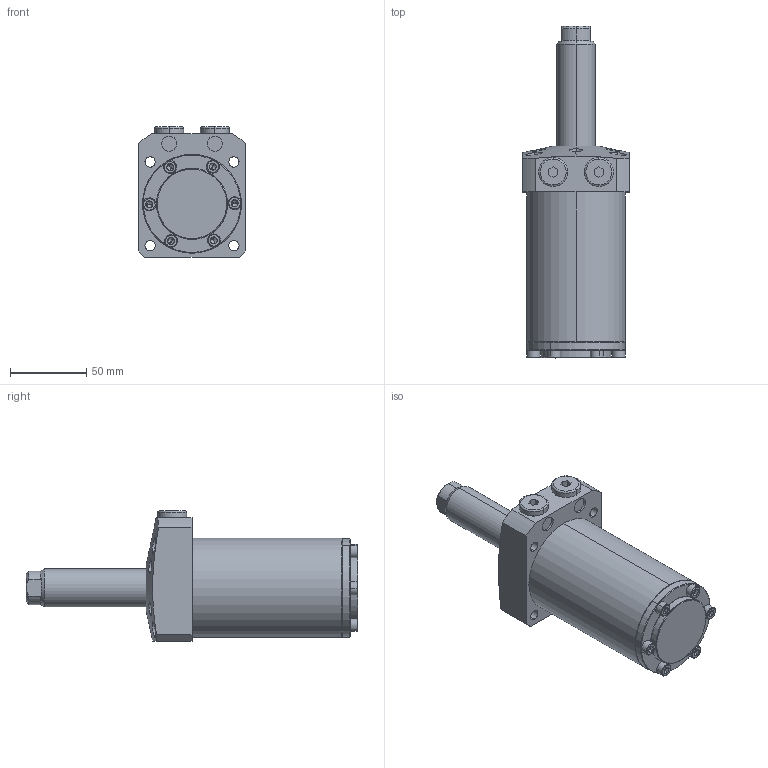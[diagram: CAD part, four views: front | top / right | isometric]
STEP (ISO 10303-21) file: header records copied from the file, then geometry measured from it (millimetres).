
FILE_DESCRIPTION (( 'STEP AP203' ), '1' );
FILE_NAME ('680650-CA-076.step', '2016-11-02T03:25:30', ( 'wxp' ), ( '' ), 'SwSTEP 2.0', 'SolidWorks 2011', '' );
FILE_SCHEMA (( 'CONFIG_CONTROL_DESIGN' ));
Length unit declared in the file: millimetre
Products named in the file (7): 葩璃 68065-CA-51-6^680650-CA-076; 葩璃 68065-CA-51-5^680650-CA-076; 葩璃 68065-CA-51-4^680650-CA-076; 葩璃 68065-CA-51-3^680650-CA-076; 葩璃 68065-CA-51-2^680650-CA-076; 葩璃 68065-CA-51-1^680650-CA-076; 680650-CA-076
Assembly tree (17 placements, depth 2):
  680650-CA-076
    葩璃 68065-CA-51-4^680650-CA-076  x6
    葩璃 68065-CA-51-2^680650-CA-076
    葩璃 68065-CA-51-1^680650-CA-076
    葩璃 68065-CA-51-5^680650-CA-076  x6
    葩璃 68065-CA-51-6^680650-CA-076  x2
    葩璃 68065-CA-51-3^680650-CA-076
Bounding box: 70 x 218 x 85.5 mm (x, y, z)
Volume: 504618.9 mm3; surface area: 76152.4 mm2
Topology: 17 solids, 17 shells, 549 faces, 1037 edges, 544 vertices
Faces by surface type: plane 236, cone 168, cylinder 129, torus 16
Entity records: 7555 total; most frequent: CARTESIAN_POINT 1853, DIRECTION 1077, ORIENTED_EDGE 878, AXIS2_PLACEMENT_3D 451, EDGE_CURVE 439, VERTEX_POINT 262, EDGE_LOOP 257, CIRCLE 218
